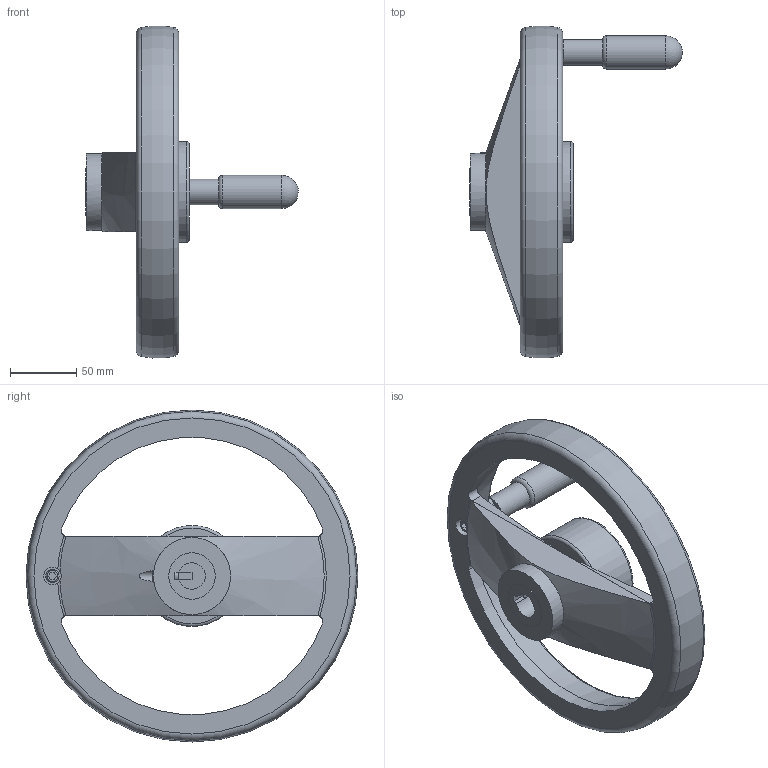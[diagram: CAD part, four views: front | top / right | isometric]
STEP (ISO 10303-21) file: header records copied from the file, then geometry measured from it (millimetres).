
FILE_DESCRIPTION( ( 'STEP AP203' ), '1' );
FILE_NAME( 'C:/Temp/Ganter_Step_05_03_2020/data/1_4/gn_522_8/gn_522_8_k/gn_522_8_k_d/Spoked handwheel GN 522.8-250-K20-D.stp', '2020-03-05T10:53:35', ( 'License CC BY-ND 4.0' ), ( 'CADENAS' ), ' ', 'PARTsolutions', ' ' );
FILE_SCHEMA( ( 'CONFIG_CONTROL_DESIGN' ) );
Length unit declared in the file: millimetre
Products named in the file (1): _Spoked handwheel GN 522.8-250-K20-D
Bounding box: 160 x 249.75 x 249.75 mm (x, y, z)
Volume: 779048.5 mm3; surface area: 136616.3 mm2
Topology: 1 solids, 1 shells, 96 faces, 233 edges, 152 vertices
Faces by surface type: plane 45, cylinder 33, torus 10, cone 7, sphere 1
Full cylindrical faces by diameter (mm): 6 x4, 10 x1, 13.333 x1, 14.625 x1, 19.5 x1, 25 x1, 35 x1, 58 x1, 67 x1, 68.8 x1, 76 x1
Entity records: 3063 total; most frequent: CARTESIAN_POINT 922, DIRECTION 434, ORIENTED_EDGE 392, EDGE_CURVE 196, AXIS2_PLACEMENT_3D 177, VERTEX_POINT 142, EDGE_LOOP 140, FACE_OUTER_BOUND 116
